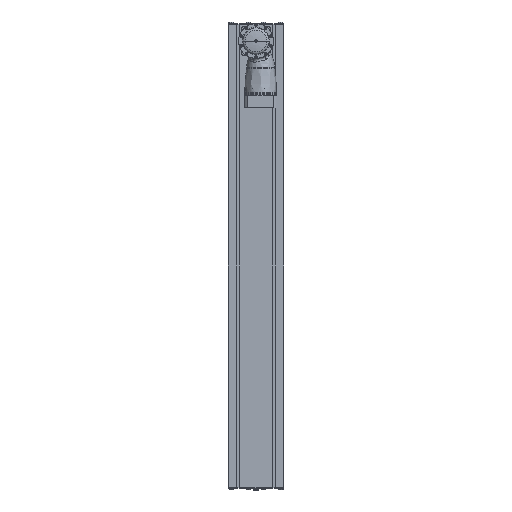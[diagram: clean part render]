
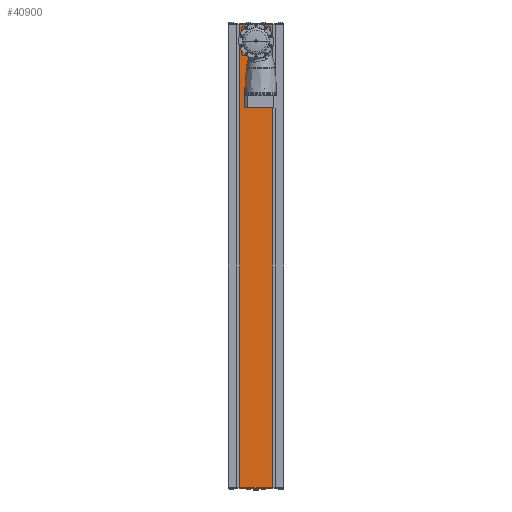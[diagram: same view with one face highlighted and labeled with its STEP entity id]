
A CAD part, front view. The second image highlights one B-rep face of the part: STEP entity #40900.
In plain terms, the highlighted planar face has unit normal (0, -1, 0).
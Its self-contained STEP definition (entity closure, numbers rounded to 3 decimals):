
#83 = DIRECTION ( 'NONE',  ( 0., 0., -1. ) ) ;
#1043 = DIRECTION ( 'NONE',  ( 0., -1., 0. ) ) ;
#1981 = DIRECTION ( 'NONE',  ( 0., -1., 0. ) ) ;
#2003 = DIRECTION ( 'NONE',  ( 0., 0., 1. ) ) ;
#2524 = LINE ( 'NONE', #87348, #64751 ) ;
#3908 = CARTESIAN_POINT ( 'NONE',  ( -34.95, 0., 498. ) ) ;
#4836 = DIRECTION ( 'NONE',  ( 1., 0., 0. ) ) ;
#6905 = FACE_BOUND ( 'NONE', #28866, .T. ) ;
#7975 = ORIENTED_EDGE ( 'NONE', *, *, #86769, .F. ) ;
#7984 = CIRCLE ( 'NONE', #63998, 2.1 ) ;
#7985 = EDGE_LOOP ( 'NONE', ( #104588, #77167, #69056, #31971 ) ) ;
#8968 = CIRCLE ( 'NONE', #9607, 2.1 ) ;
#9455 = FACE_BOUND ( 'NONE', #52580, .T. ) ;
#9607 = AXIS2_PLACEMENT_3D ( 'NONE', #86557, #37989, #94760 ) ;
#9610 = ORIENTED_EDGE ( 'NONE', *, *, #95191, .F. ) ;
#12687 = CARTESIAN_POINT ( 'NONE',  ( -24.042, 0., 438.958 ) ) ;
#13490 = CARTESIAN_POINT ( 'NONE',  ( -24.042, 0., 438.958 ) ) ;
#15065 = AXIS2_PLACEMENT_3D ( 'NONE', #13490, #70243, #21666 ) ;
#15299 = CARTESIAN_POINT ( 'NONE',  ( 0., 0., 433. ) ) ;
#16005 = CIRCLE ( 'NONE', #91331, 2.1 ) ;
#16666 = AXIS2_PLACEMENT_3D ( 'NONE', #82569, #50678, #2003 ) ;
#16746 = VERTEX_POINT ( 'NONE', #3908 ) ;
#17013 = ORIENTED_EDGE ( 'NONE', *, *, #100690, .F. ) ;
#17219 = CARTESIAN_POINT ( 'NONE',  ( -24.042, 0., 487.042 ) ) ;
#19438 = ORIENTED_EDGE ( 'NONE', *, *, #54783, .F. ) ;
#20822 = DIRECTION ( 'NONE',  ( 0., 0., -1. ) ) ;
#21666 = DIRECTION ( 'NONE',  ( 0., 0., -1. ) ) ;
#22359 = VECTOR ( 'NONE', #104895, 1000. ) ;
#22504 = CARTESIAN_POINT ( 'NONE',  ( 24.042, 0., 438.958 ) ) ;
#23322 = VECTOR ( 'NONE', #75132, 1000. ) ;
#23486 = VERTEX_POINT ( 'NONE', #81565 ) ;
#23784 = VERTEX_POINT ( 'NONE', #29037 ) ;
#24023 = EDGE_CURVE ( 'NONE', #16746, #51561, #43941, .T. ) ;
#24547 = CIRCLE ( 'NONE', #44879, 2.1 ) ;
#25414 = DIRECTION ( 'NONE',  ( 0., 0., -1. ) ) ;
#27466 = ORIENTED_EDGE ( 'NONE', *, *, #53410, .F. ) ;
#28506 = FACE_BOUND ( 'NONE', #43284, .T. ) ;
#28827 = VERTEX_POINT ( 'NONE', #71537 ) ;
#28866 = EDGE_LOOP ( 'NONE', ( #90804, #44718 ) ) ;
#29008 = CARTESIAN_POINT ( 'NONE',  ( -34.95, 0., -498. ) ) ;
#29037 = CARTESIAN_POINT ( 'NONE',  ( -24.042, 0., 489.142 ) ) ;
#29042 = AXIS2_PLACEMENT_3D ( 'NONE', #89956, #41330, #98134 ) ;
#30682 = DIRECTION ( 'NONE',  ( 0., 0., -1. ) ) ;
#31347 = CARTESIAN_POINT ( 'NONE',  ( -24.042, 0., 484.942 ) ) ;
#31971 = ORIENTED_EDGE ( 'NONE', *, *, #24023, .T. ) ;
#36078 = CIRCLE ( 'NONE', #84598, 30. ) ;
#36329 = AXIS2_PLACEMENT_3D ( 'NONE', #50660, #1981, #58815 ) ;
#37311 = EDGE_LOOP ( 'NONE', ( #17013, #9610 ) ) ;
#37612 = CIRCLE ( 'NONE', #36329, 2.1 ) ;
#37989 = DIRECTION ( 'NONE',  ( 0., -1., 0. ) ) ;
#39421 = EDGE_CURVE ( 'NONE', #16746, #28827, #2524, .T. ) ;
#40120 = VECTOR ( 'NONE', #4836, 1000. ) ;
#40900 = ADVANCED_FACE ( 'NONE', ( #93227, #28506, #9455, #6905, #90695, #69108 ), #73715, .F. ) ;
#41330 = DIRECTION ( 'NONE',  ( 0., -1., 0. ) ) ;
#42654 = LINE ( 'NONE', #29008, #40120 ) ;
#43284 = EDGE_LOOP ( 'NONE', ( #7975, #27466 ) ) ;
#43680 = CARTESIAN_POINT ( 'NONE',  ( -34.95, 0., -498. ) ) ;
#43710 = CARTESIAN_POINT ( 'NONE',  ( 24.042, 0., 489.142 ) ) ;
#43941 = LINE ( 'NONE', #96725, #22359 ) ;
#44718 = ORIENTED_EDGE ( 'NONE', *, *, #55559, .F. ) ;
#44725 = VERTEX_POINT ( 'NONE', #15299 ) ;
#44879 = AXIS2_PLACEMENT_3D ( 'NONE', #47457, #104197, #55607 ) ;
#47457 = CARTESIAN_POINT ( 'NONE',  ( 24.042, 0., 438.958 ) ) ;
#48777 = DIRECTION ( 'NONE',  ( 0., -1., 0. ) ) ;
#49726 = CARTESIAN_POINT ( 'NONE',  ( 24.042, 0., 487.042 ) ) ;
#50660 = CARTESIAN_POINT ( 'NONE',  ( -24.042, 0., 487.042 ) ) ;
#50678 = DIRECTION ( 'NONE',  ( 0., 1., 0. ) ) ;
#51561 = VERTEX_POINT ( 'NONE', #43680 ) ;
#52395 = CARTESIAN_POINT ( 'NONE',  ( 0., 0., 493. ) ) ;
#52580 = EDGE_LOOP ( 'NONE', ( #66432, #72930 ) ) ;
#53409 = EDGE_CURVE ( 'NONE', #66785, #96845, #68613, .T. ) ;
#53410 = EDGE_CURVE ( 'NONE', #54150, #90115, #8968, .T. ) ;
#54150 = VERTEX_POINT ( 'NONE', #43710 ) ;
#54783 = EDGE_CURVE ( 'NONE', #96845, #66785, #16005, .T. ) ;
#55014 = EDGE_CURVE ( 'NONE', #23784, #97997, #37612, .T. ) ;
#55559 = EDGE_CURVE ( 'NONE', #97153, #44725, #36078, .T. ) ;
#55607 = DIRECTION ( 'NONE',  ( 0., 0., -1. ) ) ;
#55991 = CARTESIAN_POINT ( 'NONE',  ( 24.042, 0., 441.058 ) ) ;
#56336 = EDGE_CURVE ( 'NONE', #44725, #97153, #67184, .T. ) ;
#56518 = CARTESIAN_POINT ( 'NONE',  ( 24.042, 0., 484.942 ) ) ;
#57076 = CARTESIAN_POINT ( 'NONE',  ( -24.042, 0., 441.058 ) ) ;
#57863 = DIRECTION ( 'NONE',  ( 0., 0., -1. ) ) ;
#58805 = EDGE_LOOP ( 'NONE', ( #92583, #19438 ) ) ;
#58815 = DIRECTION ( 'NONE',  ( 0., 0., -1. ) ) ;
#63998 = AXIS2_PLACEMENT_3D ( 'NONE', #17219, #73967, #25414 ) ;
#64751 = VECTOR ( 'NONE', #95513, 1000. ) ;
#65676 = EDGE_CURVE ( 'NONE', #28827, #84687, #66457, .T. ) ;
#66432 = ORIENTED_EDGE ( 'NONE', *, *, #87694, .F. ) ;
#66457 = LINE ( 'NONE', #66623, #23322 ) ;
#66623 = CARTESIAN_POINT ( 'NONE',  ( 34.95, 0., 498. ) ) ;
#66785 = VERTEX_POINT ( 'NONE', #73146 ) ;
#67184 = CIRCLE ( 'NONE', #29042, 30. ) ;
#68613 = CIRCLE ( 'NONE', #15065, 2.1 ) ;
#69056 = ORIENTED_EDGE ( 'NONE', *, *, #39421, .F. ) ;
#69108 = FACE_BOUND ( 'NONE', #58805, .T. ) ;
#69456 = DIRECTION ( 'NONE',  ( 0., -1., 0. ) ) ;
#70243 = DIRECTION ( 'NONE',  ( 0., -1., 0. ) ) ;
#71537 = CARTESIAN_POINT ( 'NONE',  ( 34.95, 0., 498. ) ) ;
#72637 = CIRCLE ( 'NONE', #99335, 2.1 ) ;
#72816 = VERTEX_POINT ( 'NONE', #55991 ) ;
#72930 = ORIENTED_EDGE ( 'NONE', *, *, #55014, .F. ) ;
#73146 = CARTESIAN_POINT ( 'NONE',  ( -24.042, 0., 436.858 ) ) ;
#73715 = PLANE ( 'NONE',  #16666 ) ;
#73967 = DIRECTION ( 'NONE',  ( 0., -1., 0. ) ) ;
#75132 = DIRECTION ( 'NONE',  ( 0., 0., -1. ) ) ;
#77167 = ORIENTED_EDGE ( 'NONE', *, *, #65676, .F. ) ;
#79235 = DIRECTION ( 'NONE',  ( 0., -1., 0. ) ) ;
#81074 = EDGE_CURVE ( 'NONE', #51561, #84687, #42654, .T. ) ;
#81565 = CARTESIAN_POINT ( 'NONE',  ( 24.042, 0., 436.858 ) ) ;
#82569 = CARTESIAN_POINT ( 'NONE',  ( -34.95, 0., 498. ) ) ;
#84598 = AXIS2_PLACEMENT_3D ( 'NONE', #97369, #48777, #83 ) ;
#84687 = VERTEX_POINT ( 'NONE', #85890 ) ;
#85890 = CARTESIAN_POINT ( 'NONE',  ( 34.95, 0., -498. ) ) ;
#86557 = CARTESIAN_POINT ( 'NONE',  ( 24.042, 0., 487.042 ) ) ;
#86769 = EDGE_CURVE ( 'NONE', #90115, #54150, #94730, .T. ) ;
#87348 = CARTESIAN_POINT ( 'NONE',  ( -34.95, 0., 498. ) ) ;
#87694 = EDGE_CURVE ( 'NONE', #97997, #23784, #7984, .T. ) ;
#89956 = CARTESIAN_POINT ( 'NONE',  ( 0., 0., 463. ) ) ;
#90115 = VERTEX_POINT ( 'NONE', #56518 ) ;
#90695 = FACE_OUTER_BOUND ( 'NONE', #7985, .T. ) ;
#90804 = ORIENTED_EDGE ( 'NONE', *, *, #56336, .F. ) ;
#91331 = AXIS2_PLACEMENT_3D ( 'NONE', #12687, #69456, #20822 ) ;
#92455 = AXIS2_PLACEMENT_3D ( 'NONE', #49726, #1043, #57863 ) ;
#92583 = ORIENTED_EDGE ( 'NONE', *, *, #53409, .F. ) ;
#93227 = FACE_BOUND ( 'NONE', #37311, .T. ) ;
#94730 = CIRCLE ( 'NONE', #92455, 2.1 ) ;
#94760 = DIRECTION ( 'NONE',  ( 0., 0., -1. ) ) ;
#95191 = EDGE_CURVE ( 'NONE', #72816, #23486, #72637, .T. ) ;
#95513 = DIRECTION ( 'NONE',  ( 1., 0., 0. ) ) ;
#96725 = CARTESIAN_POINT ( 'NONE',  ( -34.95, 0., 498. ) ) ;
#96845 = VERTEX_POINT ( 'NONE', #57076 ) ;
#97153 = VERTEX_POINT ( 'NONE', #52395 ) ;
#97369 = CARTESIAN_POINT ( 'NONE',  ( 0., 0., 463. ) ) ;
#97997 = VERTEX_POINT ( 'NONE', #31347 ) ;
#98134 = DIRECTION ( 'NONE',  ( 0., 0., -1. ) ) ;
#99335 = AXIS2_PLACEMENT_3D ( 'NONE', #22504, #79235, #30682 ) ;
#100690 = EDGE_CURVE ( 'NONE', #23486, #72816, #24547, .T. ) ;
#104197 = DIRECTION ( 'NONE',  ( 0., -1., 0. ) ) ;
#104588 = ORIENTED_EDGE ( 'NONE', *, *, #81074, .T. ) ;
#104895 = DIRECTION ( 'NONE',  ( 0., 0., -1. ) ) ;
